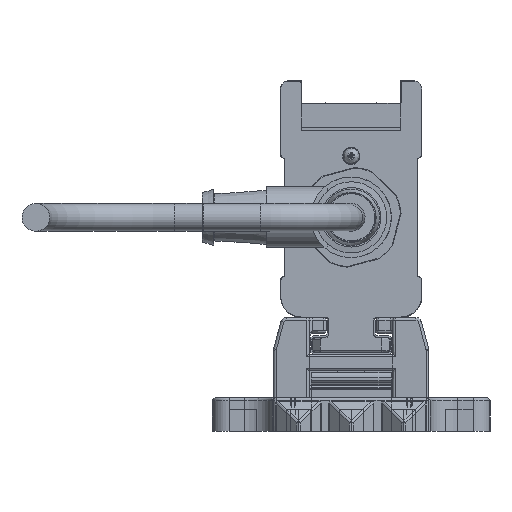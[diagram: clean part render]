
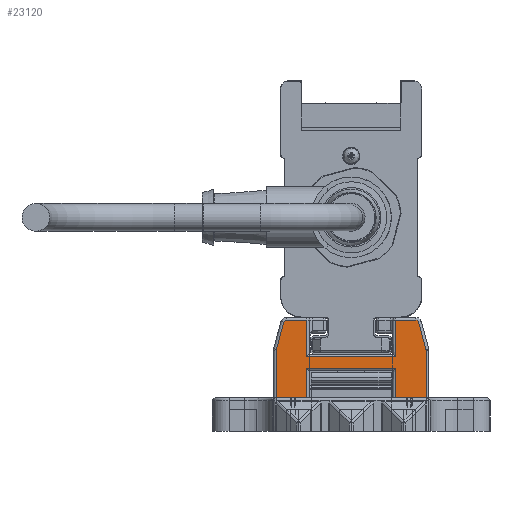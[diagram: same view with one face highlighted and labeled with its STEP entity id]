
A CAD part, left-side view. The second image highlights one B-rep face of the part: STEP entity #23120.
In plain terms, the highlighted planar face has unit normal (-1, 0, 0).
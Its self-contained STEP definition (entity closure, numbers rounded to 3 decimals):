
#23120=ADVANCED_FACE('', (#23130), #23140, .T.);
#117610=AXIS2_PLACEMENT_3D('Ax2Pl3d', #117620, #117630, #117640);
#117850=AXIS2_PLACEMENT_3D('Ax2Pl3d', #117860, #117870, #117880);
#122730=AXIS2_PLACEMENT_3D('Ax2Pl3d', #122740, #122750, #122760);
#127810=AXIS2_PLACEMENT_3D('Ax2Pl3d', #127820, #127830, #127840);
#137490=AXIS2_PLACEMENT_3D('Ax2Pl3d', #137500, #137510, #137520);
#453240=CARTESIAN_POINT('', (-747.669,-1766.345,
331.37));
#117620=CARTESIAN_POINT('HicPkt', (-747.669,-1765.379,
331.111));
#453250=CARTESIAN_POINT('', (-747.669,-1766.379,
331.111));
#453260=CARTESIAN_POINT('', (-747.669,-1765.037,
336.255));
#453280=CARTESIAN_POINT('', (-747.669,-1765.037,
336.255));
#453310=CARTESIAN_POINT('', (-747.669,-1764.554,336.625)
);
#117860=CARTESIAN_POINT('HicPkt', (-747.669,-1764.554,
336.125));
#453530=CARTESIAN_POINT('', (-747.669,-1766.379,
322.625));
#453540=CARTESIAN_POINT('', (-747.669,-1760.881,
322.625));
#453550=CARTESIAN_POINT('', (-747.669,-1760.881,
322.625));
#453630=CARTESIAN_POINT('', (-747.669,-1744.881,
322.625));
#453640=CARTESIAN_POINT('', (-747.669,-1739.383,
322.625));
#453650=CARTESIAN_POINT('', (-747.669,-1739.383,
322.625));
#122740=CARTESIAN_POINT('HicPkt', (-747.669,-1741.209,
336.125));
#456120=CARTESIAN_POINT('', (-747.669,-1740.726,
336.255));
#456130=CARTESIAN_POINT('', (-747.669,-1741.209,
336.625));
#456140=CARTESIAN_POINT('', (-747.669,-1760.881,
330.025));
#456150=CARTESIAN_POINT('', (-747.669,-1744.881,
330.025));
#456160=CARTESIAN_POINT('', (-747.669,-1760.881,
330.025));
#456320=CARTESIAN_POINT('', (-747.669,-1760.881,
328.005));
#456330=CARTESIAN_POINT('', (-747.669,-1744.881,
328.005));
#456340=CARTESIAN_POINT('', (-747.669,-1744.881,
328.005));
#456350=CARTESIAN_POINT('', (-747.669,-1760.881,
328.005));
#456370=CARTESIAN_POINT('', (-747.669,-1744.881,
322.625));
#456380=CARTESIAN_POINT('', (-747.669,-1744.881,
330.025));
#456390=CARTESIAN_POINT('', (-747.669,-1744.881,
336.625));
#457240=CARTESIAN_POINT('', (-747.669,-1744.881,
336.625));
#457250=CARTESIAN_POINT('', (-747.669,-1740.726,336.255)
);
#457260=CARTESIAN_POINT('', (-747.669,-1739.417,
331.37));
#457450=CARTESIAN_POINT('', (-747.669,-1739.383,
331.111));
#457460=CARTESIAN_POINT('', (-747.669,-1739.383,
331.111));
#127820=CARTESIAN_POINT('HicPkt', (-747.669,-1740.383,
331.111));
#458270=CARTESIAN_POINT('', (-747.669,-1766.379,
331.111));
#137500=CARTESIAN_POINT('HicPkt', (-747.669,-1764.554,
336.625));
#460070=CARTESIAN_POINT('', (-747.669,-1760.881,
336.625));
#460080=CARTESIAN_POINT('', (-747.669,-1760.881,
336.625));
#460090=CARTESIAN_POINT('', (-747.669,-1760.881,
336.625));
#522140=CIRCLE('Circle', #117610, 1.);
#522180=CIRCLE('Circle', #117850, 0.5);
#522760=CIRCLE('Circle', #122730, 0.5);
#523290=CIRCLE('Circle', #127810, 1.);
#117630=DIRECTION('Axis', (-1.,0.,
0.));
#117640=DIRECTION('RefDirection', (0.,
0.,-1.));
#730180=DIRECTION('', (0.,0.259,
0.966));
#117870=DIRECTION('Axis', (-1.,0.,
0.));
#117880=DIRECTION('RefDirection', (0.,
0.,-1.));
#730290=DIRECTION('', (0.,1.,0.));
#730330=DIRECTION('', (0.,1.,0.));
#122750=DIRECTION('Axis', (1.,0.,
0.));
#122760=DIRECTION('RefDirection', (0.,
0.,-1.));
#731520=DIRECTION('', (0.,-1.,0.));
#731620=DIRECTION('', (0.,1.,0.));
#731630=DIRECTION('', (0.,0.,1.));
#731650=DIRECTION('', (0.,0.,-1.));
#731660=DIRECTION('', (0.,0.,-1.));
#732090=DIRECTION('', (0.,-1.,0.));
#732100=DIRECTION('', (0.,-0.259,0.966));
#732190=DIRECTION('', (0.,0.,1.));
#127830=DIRECTION('Axis', (1.,0.,
0.));
#127840=DIRECTION('RefDirection', (0.,
0.,-1.));
#732560=DIRECTION('', (0.,0.,1.));
#137510=DIRECTION('Axis', (-1.,0.,
0.));
#137520=DIRECTION('RefDirection', (0.,
0.,-1.));
#733400=DIRECTION('', (0.,1.,0.));
#733410=DIRECTION('', (0.,0.,1.));
#785930=EDGE_CURVE('', #785940, #785920, #522140, .T.);
#785990=EDGE_CURVE('', #785920, #785970, #786000, .T.);
#786060=EDGE_CURVE('', #785970, #786050, #522180, .T.);
#786510=EDGE_CURVE('', #786500, #786520, #786530, .T.);
#786670=EDGE_CURVE('', #786660, #786680, #786690, .T.);
#791030=EDGE_CURVE('', #791040, #791050, #522760, .T.);
#791080=EDGE_CURVE('', #791090, #791100, #791110, .T.);
#791450=EDGE_CURVE('', #791430, #791460, #791470, .T.);
#791500=EDGE_CURVE('', #786520, #791430, #791510, .T.);
#791540=EDGE_CURVE('', #791460, #786660, #791550, .T.);
#791560=EDGE_CURVE('', #791570, #791090, #791580, .T.);
#793400=EDGE_CURVE('', #791050, #791570, #793410, .T.);
#793470=EDGE_CURVE('', #793480, #791040, #793490, .T.);
#793910=EDGE_CURVE('', #786680, #793920, #793930, .T.);
#793950=EDGE_CURVE('', #793920, #793480, #523290, .T.);
#795660=EDGE_CURVE('', #786500, #785940, #795670, .T.);
#799470=EDGE_CURVE('', #786050, #799480, #799490, .T.);
#799500=EDGE_CURVE('', #791100, #799480, #799510, .T.);
#950330=EDGE_LOOP('Edge_loop', (#950340,#950350,#950360,#950370,#950380,
#950390,#950400,#950410,#950420,#950430,#950440,#950450,#950460,#950470,
#950480,#950490,#950500,#950510));
#23130=FACE_OUTER_BOUND('Face_outer_bound', #950330, .T.);
#786000=LINE('Line', #453280, #1078570);
#786530=LINE('Line', #453540, #1078680);
#786690=LINE('Line', #453640, #1078720);
#791110=LINE('Line', #456140, #1079910);
#791470=LINE('Line', #456330, #1080010);
#791510=LINE('Line', #456350, #1080020);
#791550=LINE('Line', #456370, #1080040);
#791580=LINE('Line', #456380, #1080050);
#793410=LINE('Line', #457240, #1080480);
#793490=LINE('Line', #457250, #1080490);
#793930=LINE('Line', #457450, #1080580);
#795670=LINE('Line', #458270, #1080950);
#799490=LINE('Line', #460070, #1081790);
#799510=LINE('Line', #460090, #1081800);
#950340=ORIENTED_EDGE('', *, *, #799470, .T.);
#950350=ORIENTED_EDGE('', *, *, #799500, .F.);
#950360=ORIENTED_EDGE('', *, *, #791080, .F.);
#950370=ORIENTED_EDGE('', *, *, #791560, .F.);
#950380=ORIENTED_EDGE('', *, *, #793400, .F.);
#950390=ORIENTED_EDGE('', *, *, #791030, .F.);
#950400=ORIENTED_EDGE('', *, *, #793470, .F.);
#950410=ORIENTED_EDGE('', *, *, #793950, .F.);
#950420=ORIENTED_EDGE('', *, *, #793910, .F.);
#950430=ORIENTED_EDGE('', *, *, #786670, .F.);
#950440=ORIENTED_EDGE('', *, *, #791540, .F.);
#950450=ORIENTED_EDGE('', *, *, #791450, .F.);
#950460=ORIENTED_EDGE('', *, *, #791500, .F.);
#950470=ORIENTED_EDGE('', *, *, #786510, .F.);
#950480=ORIENTED_EDGE('', *, *, #795660, .T.);
#950490=ORIENTED_EDGE('', *, *, #785930, .T.);
#950500=ORIENTED_EDGE('', *, *, #785990, .T.);
#950510=ORIENTED_EDGE('', *, *, #786060, .T.);
#23140=PLANE('Plane', #137490);
#1078570=VECTOR('', #730180, 5.057);
#1078680=VECTOR('', #730290, 5.498);
#1078720=VECTOR('', #730330, 5.498);
#1079910=VECTOR('', #731520, 16.);
#1080010=VECTOR('', #731620, 16.);
#1080020=VECTOR('', #731630, 5.38);
#1080040=VECTOR('', #731650, 5.38);
#1080050=VECTOR('', #731660, 6.6);
#1080480=VECTOR('', #732090, 3.672);
#1080490=VECTOR('', #732100, 5.057);
#1080580=VECTOR('', #732190, 8.486);
#1080950=VECTOR('', #732560, 8.486);
#1081790=VECTOR('', #733400, 3.672);
#1081800=VECTOR('', #733410, 6.6);
#785920=VERTEX_POINT('', #453240);
#785940=VERTEX_POINT('', #453250);
#785970=VERTEX_POINT('', #453260);
#786050=VERTEX_POINT('', #453310);
#786500=VERTEX_POINT('', #453530);
#786520=VERTEX_POINT('', #453550);
#786660=VERTEX_POINT('', #453630);
#786680=VERTEX_POINT('', #453650);
#791040=VERTEX_POINT('', #456120);
#791050=VERTEX_POINT('', #456130);
#791090=VERTEX_POINT('', #456150);
#791100=VERTEX_POINT('', #456160);
#791430=VERTEX_POINT('', #456320);
#791460=VERTEX_POINT('', #456340);
#791570=VERTEX_POINT('', #456390);
#793480=VERTEX_POINT('', #457260);
#793920=VERTEX_POINT('', #457460);
#799480=VERTEX_POINT('', #460080);
